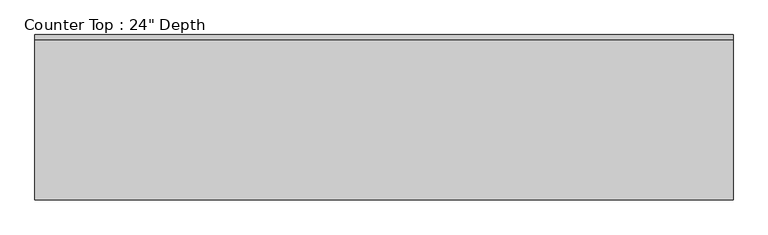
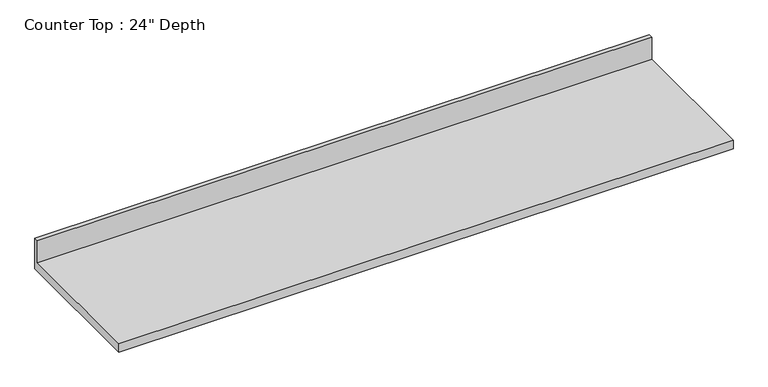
"""IFC4 building model written with IfcOpenShell, lengths in millimetres: furniture geometry."""

from ifc_helpers import new_model, si_unit, frame, origin, place, context, project, spatial, polyline, outline, extrude, source, transform, mapped, element, save


def furniture_60aab8a8(model_context):
    return source(origin(), model_context, "Body", "SweptSolid", [
        extrude(outline(polyline([(0.0, 1016.0), (0.0, 876.3), (-635.0, 876.3), (-635.0, 914.4), (-19.05, 914.4), (-19.05, 1016.0), (0.0, 1016.0)])), frame((-1200.4622951, 0.0, 0.0), z_axis=(1.0, 0.0, 0.0), x_axis=(0.0, 1.0, 0.0)), (0.0, 0.0, 1.0), 2679.8017031),
    ])


if __name__ == "__main__":
    model = new_model("IFC4")
    model_context = context("Model", 3, world=origin())
    ifc_project = project(units=[si_unit("LENGTHUNIT", "METRE", prefix="MILLI")], contexts=[model_context])
    site = spatial("IfcSite", under=ifc_project)
    building = spatial("IfcBuilding", under=site)
    placement = place(None, origin())
    furniture_shape = furniture_60aab8a8(model_context)
    element("IfcFurniture", 1, ObjectType="Counter Top : 24\" Depth", at=placement, inside=building, context=model_context, shape_type="MappedRepresentation", body=[
        mapped(furniture_shape, transform((0.0, 0.0, 0.0), x_axis=(1.0, 0.0, 0.0), y_axis=(0.0, 1.0, 0.0), z_axis=(0.0, 0.0, 1.0))),
    ])
    save(model, "model.ifc")
